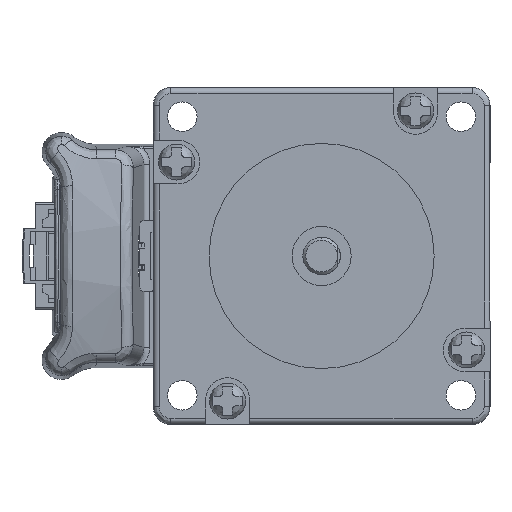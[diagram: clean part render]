
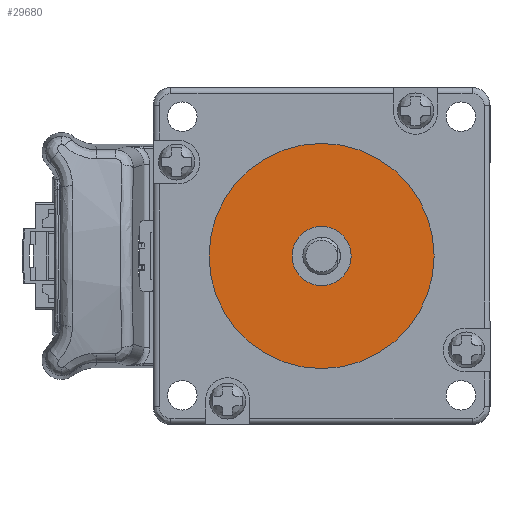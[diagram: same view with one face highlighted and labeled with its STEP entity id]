
A CAD part, left-side view. The second image highlights one B-rep face of the part: STEP entity #29680.
In plain terms, the highlighted planar face has unit normal (-1, 0, 0) as drawn and (0, 0, 1) by its records, which use the part's own axes.
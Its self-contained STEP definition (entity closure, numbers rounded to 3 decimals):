
#1869 = VERTEX_POINT ( 'NONE', #87150 ) ;
#5995 = ORIENTED_EDGE ( 'NONE', *, *, #105830, .T. ) ;
#8392 = DIRECTION ( 'NONE',  ( 1., 0., 0. ) ) ;
#11179 = CIRCLE ( 'NONE', #82986, 19.05 ) ;
#11450 = ORIENTED_EDGE ( 'NONE', *, *, #55148, .T. ) ;
#16627 = DIRECTION ( 'NONE',  ( 0., 0., -1. ) ) ;
#17181 = CARTESIAN_POINT ( 'NONE',  ( 92.211, -49.743, 56.6 ) ) ;
#21678 = EDGE_LOOP ( 'NONE', ( #112217, #100945 ) ) ;
#23512 = CARTESIAN_POINT ( 'NONE',  ( 71.256, -70.483, 56.6 ) ) ;
#23525 = AXIS2_PLACEMENT_3D ( 'NONE', #31361, #97431, #40867 ) ;
#26682 = DIRECTION ( 'NONE',  ( -1., 0., 0. ) ) ;
#29680 = ADVANCED_FACE ( 'NONE', ( #111738, #39236 ), #99085, .T. ) ;
#31361 = CARTESIAN_POINT ( 'NONE',  ( 92.211, -49.743, 56.6 ) ) ;
#35398 = CIRCLE ( 'NONE', #23525, 19.05 ) ;
#38769 = EDGE_LOOP ( 'NONE', ( #11450, #5995 ) ) ;
#39236 = FACE_BOUND ( 'NONE', #38769, .T. ) ;
#40867 = DIRECTION ( 'NONE',  ( 1., 0., 0. ) ) ;
#42499 = DIRECTION ( 'NONE',  ( 0., 0., 1. ) ) ;
#47255 = AXIS2_PLACEMENT_3D ( 'NONE', #73187, #16627, #82639 ) ;
#49477 = EDGE_CURVE ( 'NONE', #115263, #104987, #35398, .T. ) ;
#50305 = AXIS2_PLACEMENT_3D ( 'NONE', #23512, #42499, #108650 ) ;
#53133 = EDGE_CURVE ( 'NONE', #104987, #115263, #11179, .T. ) ;
#54018 = CARTESIAN_POINT ( 'NONE',  ( 97.211, -49.743, 56.6 ) ) ;
#55148 = EDGE_CURVE ( 'NONE', #1869, #115714, #61136, .T. ) ;
#61136 = CIRCLE ( 'NONE', #92587, 5. ) ;
#64916 = DIRECTION ( 'NONE',  ( 0., 0., -1. ) ) ;
#73187 = CARTESIAN_POINT ( 'NONE',  ( 92.211, -49.743, 56.6 ) ) ;
#82639 = DIRECTION ( 'NONE',  ( -1., 0., 0. ) ) ;
#82986 = AXIS2_PLACEMENT_3D ( 'NONE', #121670, #64916, #8392 ) ;
#83216 = DIRECTION ( 'NONE',  ( 0., 0., -1. ) ) ;
#86163 = CARTESIAN_POINT ( 'NONE',  ( 111.261, -49.743, 56.6 ) ) ;
#87150 = CARTESIAN_POINT ( 'NONE',  ( 87.211, -49.743, 56.6 ) ) ;
#92587 = AXIS2_PLACEMENT_3D ( 'NONE', #17181, #83216, #26682 ) ;
#97431 = DIRECTION ( 'NONE',  ( 0., 0., -1. ) ) ;
#99085 = PLANE ( 'NONE',  #50305 ) ;
#100945 = ORIENTED_EDGE ( 'NONE', *, *, #49477, .F. ) ;
#104987 = VERTEX_POINT ( 'NONE', #86163 ) ;
#105830 = EDGE_CURVE ( 'NONE', #115714, #1869, #106543, .T. ) ;
#106543 = CIRCLE ( 'NONE', #47255, 5. ) ;
#108650 = DIRECTION ( 'NONE',  ( 1., 0., 0. ) ) ;
#109729 = CARTESIAN_POINT ( 'NONE',  ( 73.161, -49.743, 56.6 ) ) ;
#111738 = FACE_OUTER_BOUND ( 'NONE', #21678, .T. ) ;
#112217 = ORIENTED_EDGE ( 'NONE', *, *, #53133, .F. ) ;
#115263 = VERTEX_POINT ( 'NONE', #109729 ) ;
#115714 = VERTEX_POINT ( 'NONE', #54018 ) ;
#121670 = CARTESIAN_POINT ( 'NONE',  ( 92.211, -49.743, 56.6 ) ) ;
